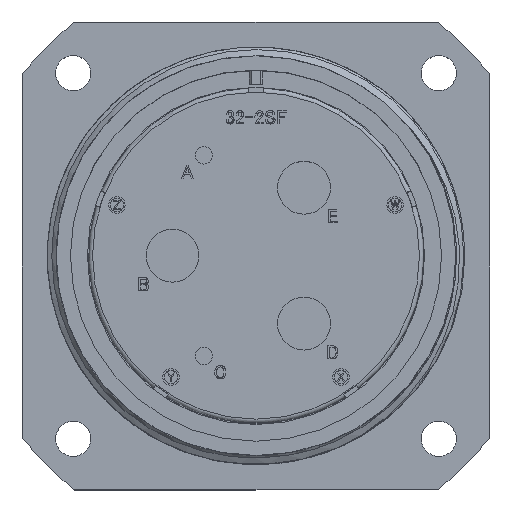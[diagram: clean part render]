
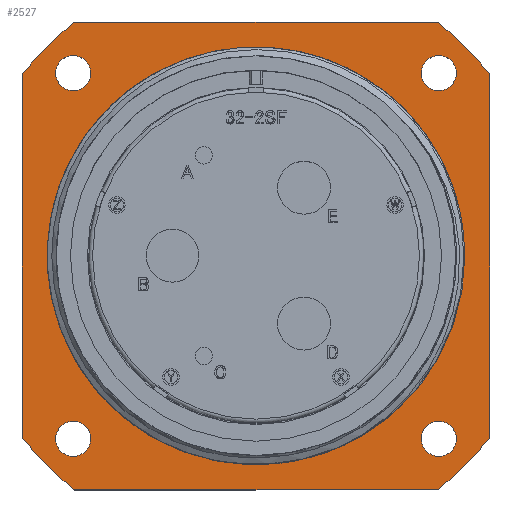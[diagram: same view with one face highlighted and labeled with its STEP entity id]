
A CAD part, top view. The second image highlights one B-rep face of the part: STEP entity #2527.
In plain terms, the highlighted planar face has unit normal (0, 0, 1).
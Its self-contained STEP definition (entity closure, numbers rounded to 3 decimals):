
#120 = AXIS2_PLACEMENT_3D ( 'NONE', #16417, #21046, #13997 ) ;
#222 = FACE_BOUND ( 'NONE', #28144, .T. ) ;
#372 = CIRCLE ( 'NONE', #15454, 36. ) ;
#547 = CARTESIAN_POINT ( 'NONE',  ( 22.059, -28.45, -22.4 ) ) ;
#715 = CARTESIAN_POINT ( 'NONE',  ( -22.225, 22.225, -22.4 ) ) ;
#800 = ORIENTED_EDGE ( 'NONE', *, *, #12831, .F. ) ;
#1523 = AXIS2_PLACEMENT_3D ( 'NONE', #29484, #12711, #29178 ) ;
#1945 = EDGE_LOOP ( 'NONE', ( #23100 ) ) ;
#2462 = FACE_BOUND ( 'NONE', #19894, .T. ) ;
#2463 = CIRCLE ( 'NONE', #28515, 2.135 ) ;
#2527 = ADVANCED_FACE ( 'NONE', ( #2462, #222, #17932, #17187, #3577, #10768 ), #25069, .F. ) ;
#2907 = CIRCLE ( 'NONE', #7054, 25.38 ) ;
#3393 = EDGE_CURVE ( 'NONE', #10549, #9627, #24694, .T. ) ;
#3577 = FACE_BOUND ( 'NONE', #1945, .T. ) ;
#3749 = CARTESIAN_POINT ( 'NONE',  ( -24.36, -22.225, -22.4 ) ) ;
#4043 = EDGE_CURVE ( 'NONE', #4691, #4691, #24314, .T. ) ;
#4287 = VECTOR ( 'NONE', #10316, 1000. ) ;
#4355 = CARTESIAN_POINT ( 'NONE',  ( -22.225, -22.225, -22.4 ) ) ;
#4691 = VERTEX_POINT ( 'NONE', #22223 ) ;
#5155 = CARTESIAN_POINT ( 'NONE',  ( 28.45, 22.059, -22.4 ) ) ;
#5373 = AXIS2_PLACEMENT_3D ( 'NONE', #29521, #20249, #27514 ) ;
#5573 = DIRECTION ( 'NONE',  ( 0., 0., 1. ) ) ;
#5867 = CARTESIAN_POINT ( 'NONE',  ( 0., 25.38, -22.4 ) ) ;
#5902 = ORIENTED_EDGE ( 'NONE', *, *, #19478, .F. ) ;
#6204 = DIRECTION ( 'NONE',  ( 0., 0., 1. ) ) ;
#6582 = DIRECTION ( 'NONE',  ( 0., 0., 1. ) ) ;
#6798 = DIRECTION ( 'NONE',  ( -1., 0., 0. ) ) ;
#7054 = AXIS2_PLACEMENT_3D ( 'NONE', #16258, #8981, #28391 ) ;
#7796 = CARTESIAN_POINT ( 'NONE',  ( 22.059, 28.45, -22.4 ) ) ;
#8394 = VERTEX_POINT ( 'NONE', #27207 ) ;
#8510 = DIRECTION ( 'NONE',  ( 1., 0., 0. ) ) ;
#8621 = CARTESIAN_POINT ( 'NONE',  ( -22.059, -28.45, -22.4 ) ) ;
#8981 = DIRECTION ( 'NONE',  ( 0., 0., 1. ) ) ;
#9342 = CARTESIAN_POINT ( 'NONE',  ( 28.45, -22.059, -22.4 ) ) ;
#9570 = EDGE_CURVE ( 'NONE', #10549, #28382, #372, .T. ) ;
#9627 = VERTEX_POINT ( 'NONE', #8621 ) ;
#9895 = CIRCLE ( 'NONE', #5373, 2.135 ) ;
#9992 = CARTESIAN_POINT ( 'NONE',  ( 24.36, -22.225, -22.4 ) ) ;
#9999 = VERTEX_POINT ( 'NONE', #9992 ) ;
#10026 = CARTESIAN_POINT ( 'NONE',  ( 22.059, -28.45, -22.4 ) ) ;
#10307 = DIRECTION ( 'NONE',  ( 0., 0., -1. ) ) ;
#10316 = DIRECTION ( 'NONE',  ( 1., 0., 0. ) ) ;
#10485 = DIRECTION ( 'NONE',  ( 1., 0., 0. ) ) ;
#10549 = VERTEX_POINT ( 'NONE', #547 ) ;
#10768 = FACE_OUTER_BOUND ( 'NONE', #14157, .T. ) ;
#11199 = ORIENTED_EDGE ( 'NONE', *, *, #15023, .F. ) ;
#11332 = EDGE_CURVE ( 'NONE', #26872, #25136, #15403, .T. ) ;
#11519 = CIRCLE ( 'NONE', #27264, 2.135 ) ;
#12165 = DIRECTION ( 'NONE',  ( 0., 0., 1. ) ) ;
#12711 = DIRECTION ( 'NONE',  ( 0., 0., 1. ) ) ;
#12831 = EDGE_CURVE ( 'NONE', #9999, #9999, #9895, .T. ) ;
#13000 = AXIS2_PLACEMENT_3D ( 'NONE', #24199, #12165, #17118 ) ;
#13025 = ORIENTED_EDGE ( 'NONE', *, *, #11332, .F. ) ;
#13420 = ORIENTED_EDGE ( 'NONE', *, *, #22272, .F. ) ;
#13997 = DIRECTION ( 'NONE',  ( 1., 0., 0. ) ) ;
#14110 = VERTEX_POINT ( 'NONE', #20638 ) ;
#14157 = EDGE_LOOP ( 'NONE', ( #29229, #13025, #25526, #16063, #29848, #11199, #28998, #13420 ) ) ;
#14972 = DIRECTION ( 'NONE',  ( -1., 0., 0. ) ) ;
#15023 = EDGE_CURVE ( 'NONE', #28062, #28382, #28641, .T. ) ;
#15027 = DIRECTION ( 'NONE',  ( 0., 0., 1. ) ) ;
#15403 = LINE ( 'NONE', #24880, #29353 ) ;
#15454 = AXIS2_PLACEMENT_3D ( 'NONE', #27933, #6204, #8510 ) ;
#15806 = DIRECTION ( 'NONE',  ( 0., 1., 0. ) ) ;
#15891 = CARTESIAN_POINT ( 'NONE',  ( -20.09, 22.225, -22.4 ) ) ;
#16063 = ORIENTED_EDGE ( 'NONE', *, *, #3393, .F. ) ;
#16258 = CARTESIAN_POINT ( 'NONE',  ( 0., 0., -22.4 ) ) ;
#16417 = CARTESIAN_POINT ( 'NONE',  ( 0., 0., -22.4 ) ) ;
#16610 = CARTESIAN_POINT ( 'NONE',  ( -28.45, 22.059, -22.4 ) ) ;
#16739 = EDGE_CURVE ( 'NONE', #14110, #14110, #2907, .T. ) ;
#16768 = LINE ( 'NONE', #7796, #4287 ) ;
#17118 = DIRECTION ( 'NONE',  ( -1., 0., 0. ) ) ;
#17187 = FACE_BOUND ( 'NONE', #22466, .T. ) ;
#17278 = CARTESIAN_POINT ( 'NONE',  ( -28.45, -22.059, -22.4 ) ) ;
#17450 = CARTESIAN_POINT ( 'NONE',  ( 0., 0., -22.4 ) ) ;
#17470 = DIRECTION ( 'NONE',  ( -1., 0., 0. ) ) ;
#17885 = VERTEX_POINT ( 'NONE', #15891 ) ;
#17932 = FACE_BOUND ( 'NONE', #31163, .T. ) ;
#18729 = CIRCLE ( 'NONE', #1523, 36. ) ;
#19106 = CIRCLE ( 'NONE', #19627, 36. ) ;
#19478 = EDGE_CURVE ( 'NONE', #17885, #17885, #11519, .T. ) ;
#19577 = DIRECTION ( 'NONE',  ( 0., -1., 0. ) ) ;
#19627 = AXIS2_PLACEMENT_3D ( 'NONE', #17450, #15027, #10485 ) ;
#19894 = EDGE_LOOP ( 'NONE', ( #800 ) ) ;
#20003 = EDGE_CURVE ( 'NONE', #26872, #9627, #19106, .T. ) ;
#20191 = EDGE_CURVE ( 'NONE', #26591, #26591, #2463, .T. ) ;
#20249 = DIRECTION ( 'NONE',  ( 0., 0., 1. ) ) ;
#20638 = CARTESIAN_POINT ( 'NONE',  ( 25.38, 0., -22.4 ) ) ;
#21046 = DIRECTION ( 'NONE',  ( 0., 0., 1. ) ) ;
#22223 = CARTESIAN_POINT ( 'NONE',  ( 20.09, 22.225, -22.4 ) ) ;
#22272 = EDGE_CURVE ( 'NONE', #8394, #23455, #16768, .T. ) ;
#22454 = DIRECTION ( 'NONE',  ( 1., 0., 0. ) ) ;
#22466 = EDGE_LOOP ( 'NONE', ( #5902 ) ) ;
#23001 = VECTOR ( 'NONE', #19577, 1000. ) ;
#23100 = ORIENTED_EDGE ( 'NONE', *, *, #16739, .F. ) ;
#23275 = ORIENTED_EDGE ( 'NONE', *, *, #4043, .F. ) ;
#23455 = VERTEX_POINT ( 'NONE', #27529 ) ;
#23735 = AXIS2_PLACEMENT_3D ( 'NONE', #5867, #10307, #17470 ) ;
#24199 = CARTESIAN_POINT ( 'NONE',  ( 22.225, 22.225, -22.4 ) ) ;
#24314 = CIRCLE ( 'NONE', #13000, 2.135 ) ;
#24694 = LINE ( 'NONE', #10026, #28071 ) ;
#24880 = CARTESIAN_POINT ( 'NONE',  ( -28.45, 22.059, -22.4 ) ) ;
#25069 = PLANE ( 'NONE',  #23735 ) ;
#25136 = VERTEX_POINT ( 'NONE', #16610 ) ;
#25526 = ORIENTED_EDGE ( 'NONE', *, *, #20003, .T. ) ;
#26204 = ORIENTED_EDGE ( 'NONE', *, *, #20191, .F. ) ;
#26591 = VERTEX_POINT ( 'NONE', #3749 ) ;
#26719 = CIRCLE ( 'NONE', #120, 36. ) ;
#26872 = VERTEX_POINT ( 'NONE', #17278 ) ;
#27141 = CARTESIAN_POINT ( 'NONE',  ( 28.45, 22.059, -22.4 ) ) ;
#27207 = CARTESIAN_POINT ( 'NONE',  ( -22.059, 28.45, -22.4 ) ) ;
#27264 = AXIS2_PLACEMENT_3D ( 'NONE', #715, #5573, #22454 ) ;
#27514 = DIRECTION ( 'NONE',  ( 1., 0., 0. ) ) ;
#27529 = CARTESIAN_POINT ( 'NONE',  ( 22.059, 28.45, -22.4 ) ) ;
#27933 = CARTESIAN_POINT ( 'NONE',  ( 0., 0., -22.4 ) ) ;
#28062 = VERTEX_POINT ( 'NONE', #5155 ) ;
#28071 = VECTOR ( 'NONE', #14972, 1000. ) ;
#28144 = EDGE_LOOP ( 'NONE', ( #26204 ) ) ;
#28282 = EDGE_CURVE ( 'NONE', #28062, #23455, #26719, .T. ) ;
#28382 = VERTEX_POINT ( 'NONE', #9342 ) ;
#28391 = DIRECTION ( 'NONE',  ( 1., 0., 0. ) ) ;
#28515 = AXIS2_PLACEMENT_3D ( 'NONE', #4355, #6582, #6798 ) ;
#28641 = LINE ( 'NONE', #27141, #23001 ) ;
#28998 = ORIENTED_EDGE ( 'NONE', *, *, #28282, .T. ) ;
#29178 = DIRECTION ( 'NONE',  ( 1., 0., 0. ) ) ;
#29229 = ORIENTED_EDGE ( 'NONE', *, *, #30047, .T. ) ;
#29353 = VECTOR ( 'NONE', #15806, 1000. ) ;
#29484 = CARTESIAN_POINT ( 'NONE',  ( 0., 0., -22.4 ) ) ;
#29521 = CARTESIAN_POINT ( 'NONE',  ( 22.225, -22.225, -22.4 ) ) ;
#29848 = ORIENTED_EDGE ( 'NONE', *, *, #9570, .T. ) ;
#30047 = EDGE_CURVE ( 'NONE', #8394, #25136, #18729, .T. ) ;
#31163 = EDGE_LOOP ( 'NONE', ( #23275 ) ) ;
